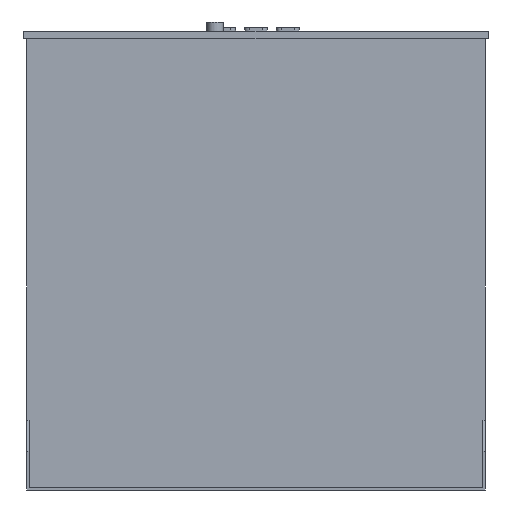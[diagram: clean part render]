
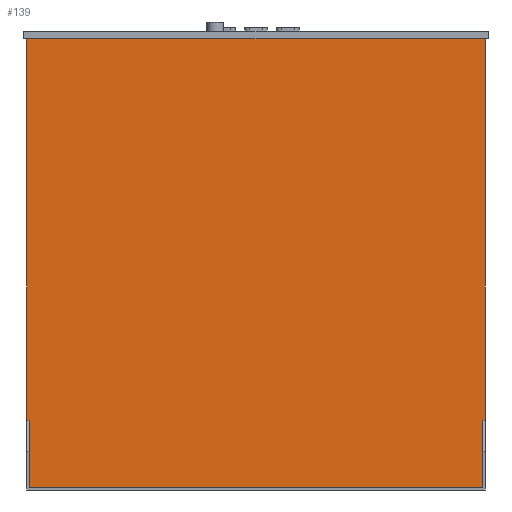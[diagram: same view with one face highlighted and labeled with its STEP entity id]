
A CAD part, front view. The second image highlights one B-rep face of the part: STEP entity #139.
In plain terms, the highlighted planar face has unit normal (0, -1, 0).
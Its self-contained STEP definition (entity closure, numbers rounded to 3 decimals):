
#139=ADVANCED_FACE('',(#2457),#2459,.T.);
#2457=FACE_BOUND('',#2458,.T.);
#2458=EDGE_LOOP('',(#4351,#4352,#4353,#4354,#4355,#4356,#4357,#4358));
#2459=PLANE('',#2460);
#2460=AXIS2_PLACEMENT_3D('',#2461,#2462,#2463);
#2461=CARTESIAN_POINT('',(-287.,-200.,0.));
#2462=DIRECTION('',(0.,-1.,0.));
#2463=DIRECTION('',(-1.,0.,0.));
#4351=ORIENTED_EDGE('',*,*,#5684,.F.);
#4352=ORIENTED_EDGE('',*,*,#5685,.F.);
#4353=ORIENTED_EDGE('',*,*,#5664,.F.);
#4354=ORIENTED_EDGE('',*,*,#5686,.T.);
#4355=ORIENTED_EDGE('',*,*,#5687,.T.);
#4356=ORIENTED_EDGE('',*,*,#5688,.F.);
#4357=ORIENTED_EDGE('',*,*,#5689,.F.);
#4358=ORIENTED_EDGE('',*,*,#5690,.F.);
#5664=EDGE_CURVE('',#6340,#6342,#6343,.T.);
#5684=EDGE_CURVE('',#6378,#6379,#6380,.F.);
#5685=EDGE_CURVE('',#6342,#6378,#6381,.T.);
#5686=EDGE_CURVE('',#6340,#6382,#6383,.F.);
#5687=EDGE_CURVE('',#6382,#6384,#6385,.T.);
#5688=EDGE_CURVE('',#6386,#6384,#6387,.T.);
#5689=EDGE_CURVE('',#6388,#6386,#6389,.F.);
#5690=EDGE_CURVE('',#6379,#6388,#6390,.F.);
#6340=VERTEX_POINT('',#7474);
#6342=VERTEX_POINT('',#7478);
#6343=LINE('',#7479,#7480);
#6378=VERTEX_POINT('',#7556);
#6379=VERTEX_POINT('',#7557);
#6380=LINE('',#7558,#7559);
#6381=LINE('',#7561,#7562);
#6382=VERTEX_POINT('',#7564);
#6383=LINE('',#7565,#7566);
#6384=VERTEX_POINT('',#7568);
#6385=LINE('',#7569,#7570);
#6386=VERTEX_POINT('',#7572);
#6387=LINE('',#7573,#7574);
#6388=VERTEX_POINT('',#7576);
#6389=LINE('',#7577,#7578);
#6390=LINE('',#7580,#7581);
#7474=CARTESIAN_POINT('',(-287.,-200.,0.));
#7478=CARTESIAN_POINT('',(-287.,-200.,-208.));
#7479=CARTESIAN_POINT('',(-287.,-200.,0.));
#7480=VECTOR('',#7481,1.);
#7481=DIRECTION('',(0.,0.,-1.));
#7556=CARTESIAN_POINT('',(-288.5,-200.,-208.));
#7557=CARTESIAN_POINT('',(-288.5,-200.,-244.5));
#7558=CARTESIAN_POINT('',(-288.5,-200.,-244.5));
#7559=VECTOR('',#7560,1.);
#7560=DIRECTION('',(0.,0.,1.));
#7561=CARTESIAN_POINT('',(-287.,-200.,-208.));
#7562=VECTOR('',#7563,1.);
#7563=DIRECTION('',(-1.,0.,0.));
#7564=CARTESIAN_POINT('',(-537.,-200.,0.));
#7565=CARTESIAN_POINT('',(-537.,-200.,0.));
#7566=VECTOR('',#7567,1.);
#7567=DIRECTION('',(1.,0.,0.));
#7568=CARTESIAN_POINT('',(-537.,-200.,-208.));
#7569=CARTESIAN_POINT('',(-537.,-200.,0.));
#7570=VECTOR('',#7571,1.);
#7571=DIRECTION('',(0.,0.,-1.));
#7572=CARTESIAN_POINT('',(-535.5,-200.,-208.));
#7573=CARTESIAN_POINT('',(-535.5,-200.,-208.));
#7574=VECTOR('',#7575,1.);
#7575=DIRECTION('',(-1.,0.,0.));
#7576=CARTESIAN_POINT('',(-535.5,-200.,-244.5));
#7577=CARTESIAN_POINT('',(-535.5,-200.,-208.));
#7578=VECTOR('',#7579,1.);
#7579=DIRECTION('',(0.,0.,-1.));
#7580=CARTESIAN_POINT('',(-535.5,-200.,-244.5));
#7581=VECTOR('',#7582,1.);
#7582=DIRECTION('',(1.,0.,0.));
